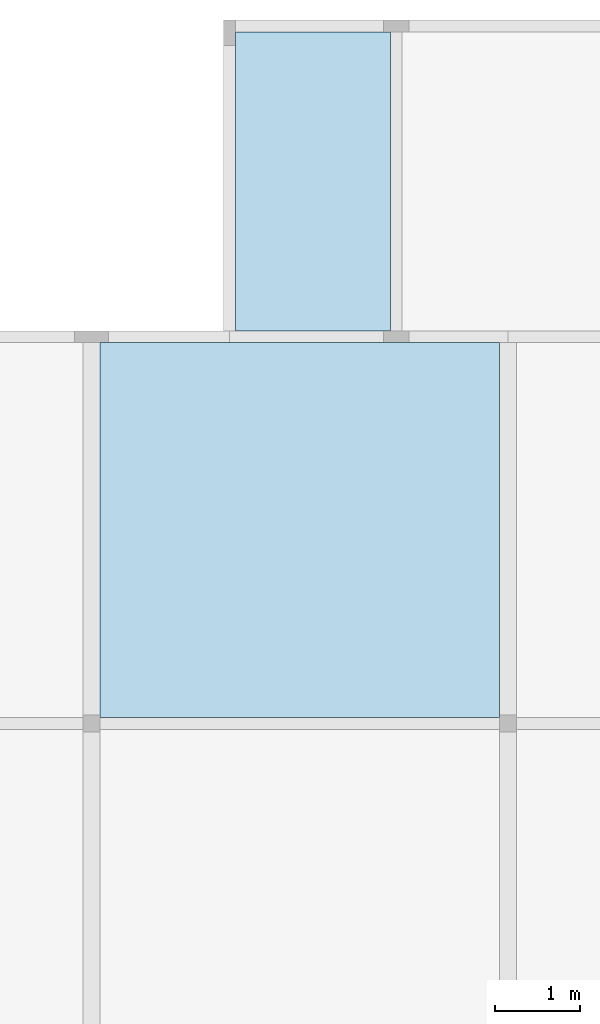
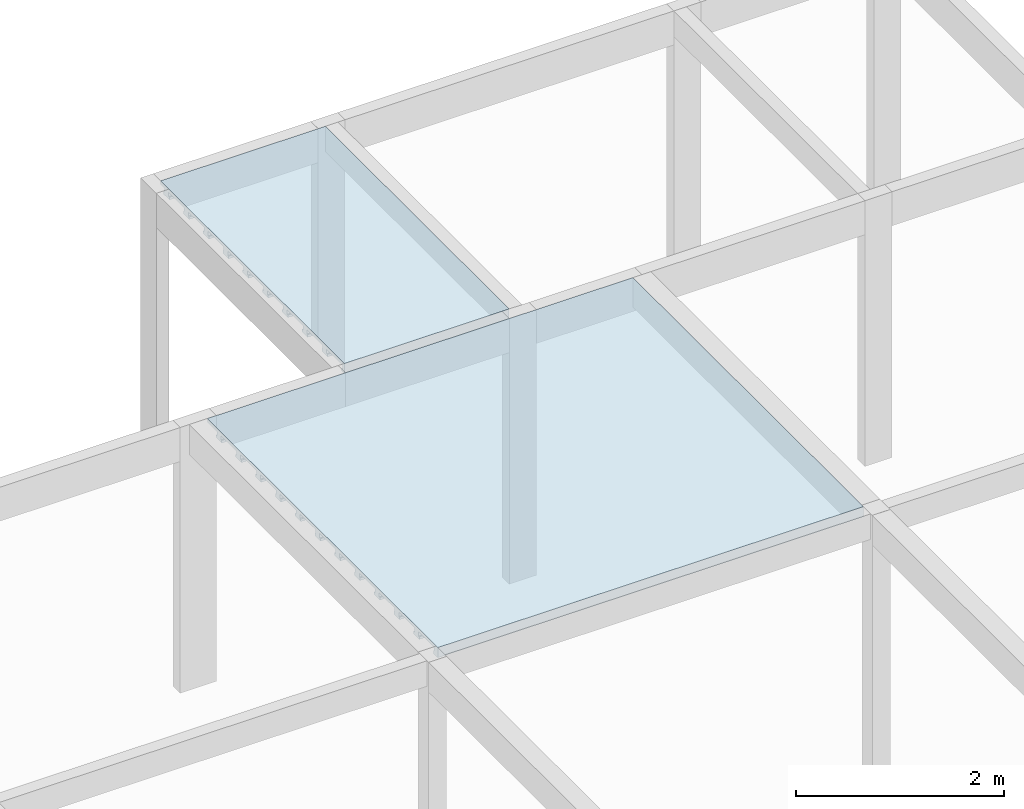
# One storey, part 5 of 7: 2 slabs.
"""IFC4 building model written with IfcOpenShell, lengths in centimetres."""

from ifc_helpers import new_model, si_unit, derived_unit, frame, origin_with_axes, place, context, project, spatial, polyline, outline, extrude, faceted_brep, material, element, save


model = new_model("IFC4")

# Units and contexts
model_context = context("Model", 3, precision=1e-05, world=origin_with_axes(), identifier="Body")
ifc_project = project(units=[si_unit("LENGTHUNIT", "METRE", prefix="CENTI"), si_unit("VOLUMEUNIT", "CUBIC_METRE"), si_unit("AREAUNIT", "SQUARE_METRE"), si_unit("POWERUNIT", "WATT"), si_unit("LUMINOUSFLUXUNIT", "LUMEN"), si_unit("ELECTRICCURRENTUNIT", "AMPERE"), si_unit("PRESSUREUNIT", "PASCAL", prefix="KILO"), si_unit("MASSUNIT", "GRAM", prefix="KILO"), si_unit("PLANEANGLEUNIT", "RADIAN"), derived_unit("VOLUMETRICFLOWRATEUNIT", [(si_unit("LENGTHUNIT", "METRE"), 3), (si_unit("TIMEUNIT", "SECOND"), -1)])], contexts=[model_context])

# Site, building, storey
site_placement = place(None, origin_with_axes())
site = spatial("IfcSite", under=ifc_project, at=site_placement)
building_placement = place(site_placement, frame((0.0, 0.0, 24.0)))
building = spatial("IfcBuilding", under=site, at=building_placement)
storey_placement = place(building_placement, frame((0.0, 0.0, 312.0), z_axis=(0.0, 0.0, 1.0), x_axis=(1.0, 0.0, 0.0)))
storey = spatial("IfcBuildingStorey", under=building, at=storey_placement, Name="RESPALDO", CompositionType="ELEMENT", Elevation=336.0)

# Slabs
ifc_material = material(Name="Concreto")
slab_1_placement = place(storey_placement, frame((780.88, 1379.26, 0.0), z_axis=(0.0, 0.0, 1.0), x_axis=(1.0, 0.0, 0.0)))
element("IfcSlab", 1, at=slab_1_placement, inside=storey, material=ifc_material, Name="L1", PredefinedType="FLOOR", context=model_context, shape_type="SolidModel", body=[
    extrude(outline(polyline([(91.499, 176.74), (-91.499, 176.74), (-91.5, -176.739), (91.5, -176.74), (91.499, 176.74), (91.499, 176.74)])), frame((0.0, 0.0, -4.0), z_axis=(0.0, 0.0, 1.0), x_axis=(1.0, 0.0, 0.0)), (0.0, 0.0, 1.0), 4.0),
    faceted_brep([(-91.4995, -172.74, -12.0), (91.4995, -172.74, -12.0), (91.4995, -176.7395, -12.0), (-91.4995, -176.7395, -12.0), (-91.4995, -176.7395, -4.0), (91.4995, -176.7395, -4.0), (91.4995, -172.74, -4.0), (-91.4995, -172.74, -4.0)], [[[0, 1, 2, 3]], [[4, 5, 6, 7]], [[4, 3, 5]], [[3, 2, 5]], [[5, 2, 6]], [[2, 1, 6]], [[6, 1, 7]], [[1, 0, 7]], [[7, 0, 4]], [[0, 3, 4]]]),
    faceted_brep([(-91.4995, -171.24, -12.0), (91.4995, -171.24, -12.0), (91.4995, -172.74, -12.0), (-91.4995, -172.74, -12.0), (-91.4995, -172.74, -9.0), (91.4995, -172.74, -9.0), (91.4995, -171.24, -9.0), (-91.4995, -171.24, -9.0)], [[[0, 1, 2, 3]], [[4, 5, 6, 7]], [[4, 3, 5]], [[3, 2, 5]], [[5, 2, 6]], [[2, 1, 6]], [[6, 1, 7]], [[1, 0, 7]], [[7, 0, 4]], [[0, 3, 4]]]),
    faceted_brep([(-91.4995, -134.74, -12.0), (91.4995, -134.74, -12.0), (91.4995, -142.74, -12.0), (-91.4995, -142.74, -12.0), (-91.4995, -142.74, -4.0), (91.4995, -142.74, -4.0), (91.4995, -134.74, -4.0), (-91.4995, -134.74, -4.0)], [[[0, 1, 2, 3]], [[4, 5, 6, 7]], [[4, 3, 5]], [[3, 2, 5]], [[5, 2, 6]], [[2, 1, 6]], [[6, 1, 7]], [[1, 0, 7]], [[7, 0, 4]], [[0, 3, 4]]]),
    faceted_brep([(-91.4995, -133.24, -12.0), (91.4995, -133.24, -12.0), (91.4995, -134.74, -12.0), (-91.4995, -134.74, -12.0), (-91.4995, -134.74, -9.0), (91.4995, -134.74, -9.0), (91.4995, -133.24, -9.0), (-91.4995, -133.24, -9.0)], [[[0, 1, 2, 3]], [[4, 5, 6, 7]], [[4, 3, 5]], [[3, 2, 5]], [[5, 2, 6]], [[2, 1, 6]], [[6, 1, 7]], [[1, 0, 7]], [[7, 0, 4]], [[0, 3, 4]]]),
    faceted_brep([(-91.4995, -142.74, -12.0), (91.4995, -142.74, -12.0), (91.4995, -144.24, -12.0), (-91.4995, -144.24, -12.0), (-91.4995, -144.24, -9.0), (91.4995, -144.24, -9.0), (91.4995, -142.74, -9.0), (-91.4995, -142.74, -9.0)], [[[0, 1, 2, 3]], [[4, 5, 6, 7]], [[4, 3, 5]], [[3, 2, 5]], [[5, 2, 6]], [[2, 1, 6]], [[6, 1, 7]], [[1, 0, 7]], [[7, 0, 4]], [[0, 3, 4]]]),
    faceted_brep([(-91.4995, -96.74, -12.0), (91.4995, -96.74, -12.0), (91.4995, -104.74, -12.0), (-91.4995, -104.74, -12.0), (-91.4995, -104.74, -4.0), (91.4995, -104.74, -4.0), (91.4995, -96.74, -4.0), (-91.4995, -96.74, -4.0)], [[[0, 1, 2, 3]], [[4, 5, 6, 7]], [[4, 3, 5]], [[3, 2, 5]], [[5, 2, 6]], [[2, 1, 6]], [[6, 1, 7]], [[1, 0, 7]], [[7, 0, 4]], [[0, 3, 4]]]),
    faceted_brep([(-91.4995, -95.24, -12.0), (91.4995, -95.24, -12.0), (91.4995, -96.74, -12.0), (-91.4995, -96.74, -12.0), (-91.4995, -96.74, -9.0), (91.4995, -96.74, -9.0), (91.4995, -95.24, -9.0), (-91.4995, -95.24, -9.0)], [[[0, 1, 2, 3]], [[4, 5, 6, 7]], [[4, 3, 5]], [[3, 2, 5]], [[5, 2, 6]], [[2, 1, 6]], [[6, 1, 7]], [[1, 0, 7]], [[7, 0, 4]], [[0, 3, 4]]]),
    faceted_brep([(-91.4995, -104.74, -12.0), (91.4995, -104.74, -12.0), (91.4995, -106.24, -12.0), (-91.4995, -106.24, -12.0), (-91.4995, -106.24, -9.0), (91.4995, -106.24, -9.0), (91.4995, -104.74, -9.0), (-91.4995, -104.74, -9.0)], [[[0, 1, 2, 3]], [[4, 5, 6, 7]], [[4, 3, 5]], [[3, 2, 5]], [[5, 2, 6]], [[2, 1, 6]], [[6, 1, 7]], [[1, 0, 7]], [[7, 0, 4]], [[0, 3, 4]]]),
    faceted_brep([(-91.4995, -58.74, -12.0), (91.4995, -58.74, -12.0), (91.4995, -66.74, -12.0), (-91.4995, -66.74, -12.0), (-91.4995, -66.74, -4.0), (91.4995, -66.74, -4.0), (91.4995, -58.74, -4.0), (-91.4995, -58.74, -4.0)], [[[0, 1, 2, 3]], [[4, 5, 6, 7]], [[4, 3, 5]], [[3, 2, 5]], [[5, 2, 6]], [[2, 1, 6]], [[6, 1, 7]], [[1, 0, 7]], [[7, 0, 4]], [[0, 3, 4]]]),
    faceted_brep([(-91.4995, -57.24, -12.0), (91.4995, -57.24, -12.0), (91.4995, -58.74, -12.0), (-91.4995, -58.74, -12.0), (-91.4995, -58.74, -9.0), (91.4995, -58.74, -9.0), (91.4995, -57.24, -9.0), (-91.4995, -57.24, -9.0)], [[[0, 1, 2, 3]], [[4, 5, 6, 7]], [[4, 3, 5]], [[3, 2, 5]], [[5, 2, 6]], [[2, 1, 6]], [[6, 1, 7]], [[1, 0, 7]], [[7, 0, 4]], [[0, 3, 4]]]),
    faceted_brep([(-91.4995, -66.74, -12.0), (91.4995, -66.74, -12.0), (91.4995, -68.24, -12.0), (-91.4995, -68.24, -12.0), (-91.4995, -68.24, -9.0), (91.4995, -68.24, -9.0), (91.4995, -66.74, -9.0), (-91.4995, -66.74, -9.0)], [[[0, 1, 2, 3]], [[4, 5, 6, 7]], [[4, 3, 5]], [[3, 2, 5]], [[5, 2, 6]], [[2, 1, 6]], [[6, 1, 7]], [[1, 0, 7]], [[7, 0, 4]], [[0, 3, 4]]]),
    faceted_brep([(-91.4995, -20.74, -12.0), (91.4995, -20.74, -12.0), (91.4995, -28.74, -12.0), (-91.4995, -28.74, -12.0), (-91.4995, -28.74, -4.0), (91.4995, -28.74, -4.0), (91.4995, -20.74, -4.0), (-91.4995, -20.74, -4.0)], [[[0, 1, 2, 3]], [[4, 5, 6, 7]], [[4, 3, 5]], [[3, 2, 5]], [[5, 2, 6]], [[2, 1, 6]], [[6, 1, 7]], [[1, 0, 7]], [[7, 0, 4]], [[0, 3, 4]]]),
    faceted_brep([(-91.4995, -19.24, -12.0), (91.4995, -19.24, -12.0), (91.4995, -20.74, -12.0), (-91.4995, -20.74, -12.0), (-91.4995, -20.74, -9.0), (91.4995, -20.74, -9.0), (91.4995, -19.24, -9.0), (-91.4995, -19.24, -9.0)], [[[0, 1, 2, 3]], [[4, 5, 6, 7]], [[4, 3, 5]], [[3, 2, 5]], [[5, 2, 6]], [[2, 1, 6]], [[6, 1, 7]], [[1, 0, 7]], [[7, 0, 4]], [[0, 3, 4]]]),
    faceted_brep([(-91.4995, -28.74, -12.0), (91.4995, -28.74, -12.0), (91.4995, -30.24, -12.0), (-91.4995, -30.24, -12.0), (-91.4995, -30.24, -9.0), (91.4995, -30.24, -9.0), (91.4995, -28.74, -9.0), (-91.4995, -28.74, -9.0)], [[[0, 1, 2, 3]], [[4, 5, 6, 7]], [[4, 3, 5]], [[3, 2, 5]], [[5, 2, 6]], [[2, 1, 6]], [[6, 1, 7]], [[1, 0, 7]], [[7, 0, 4]], [[0, 3, 4]]]),
    faceted_brep([(-91.4995, 17.26, -12.0), (91.4995, 17.26, -12.0), (91.4995, 9.26, -12.0), (-91.4995, 9.26, -12.0), (-91.4995, 9.26, -4.0), (91.4995, 9.26, -4.0), (91.4995, 17.26, -4.0), (-91.4995, 17.26, -4.0)], [[[0, 1, 2, 3]], [[4, 5, 6, 7]], [[4, 3, 5]], [[3, 2, 5]], [[5, 2, 6]], [[2, 1, 6]], [[6, 1, 7]], [[1, 0, 7]], [[7, 0, 4]], [[0, 3, 4]]]),
    faceted_brep([(-91.4995, 18.76, -12.0), (91.4995, 18.76, -12.0), (91.4995, 17.26, -12.0), (-91.4995, 17.26, -12.0), (-91.4995, 17.26, -9.0), (91.4995, 17.26, -9.0), (91.4995, 18.76, -9.0), (-91.4995, 18.76, -9.0)], [[[0, 1, 2, 3]], [[4, 5, 6, 7]], [[4, 3, 5]], [[3, 2, 5]], [[5, 2, 6]], [[2, 1, 6]], [[6, 1, 7]], [[1, 0, 7]], [[7, 0, 4]], [[0, 3, 4]]]),
    faceted_brep([(-91.4995, 9.26, -12.0), (91.4995, 9.26, -12.0), (91.4995, 7.76, -12.0), (-91.4995, 7.76, -12.0), (-91.4995, 7.76, -9.0), (91.4995, 7.76, -9.0), (91.4995, 9.26, -9.0), (-91.4995, 9.26, -9.0)], [[[0, 1, 2, 3]], [[4, 5, 6, 7]], [[4, 3, 5]], [[3, 2, 5]], [[5, 2, 6]], [[2, 1, 6]], [[6, 1, 7]], [[1, 0, 7]], [[7, 0, 4]], [[0, 3, 4]]]),
    faceted_brep([(-91.4995, 55.26, -12.0), (91.4995, 55.26, -12.0), (91.4995, 47.26, -12.0), (-91.4995, 47.26, -12.0), (-91.4995, 47.26, -4.0), (91.4995, 47.26, -4.0), (91.4995, 55.26, -4.0), (-91.4995, 55.26, -4.0)], [[[0, 1, 2, 3]], [[4, 5, 6, 7]], [[4, 3, 5]], [[3, 2, 5]], [[5, 2, 6]], [[2, 1, 6]], [[6, 1, 7]], [[1, 0, 7]], [[7, 0, 4]], [[0, 3, 4]]]),
    faceted_brep([(-91.4995, 56.76, -12.0), (91.4995, 56.76, -12.0), (91.4995, 55.26, -12.0), (-91.4995, 55.26, -12.0), (-91.4995, 55.26, -9.0), (91.4995, 55.26, -9.0), (91.4995, 56.76, -9.0), (-91.4995, 56.76, -9.0)], [[[0, 1, 2, 3]], [[4, 5, 6, 7]], [[4, 3, 5]], [[3, 2, 5]], [[5, 2, 6]], [[2, 1, 6]], [[6, 1, 7]], [[1, 0, 7]], [[7, 0, 4]], [[0, 3, 4]]]),
    faceted_brep([(-91.4995, 47.26, -12.0), (91.4995, 47.26, -12.0), (91.4995, 45.76, -12.0), (-91.4995, 45.76, -12.0), (-91.4995, 45.76, -9.0), (91.4995, 45.76, -9.0), (91.4995, 47.26, -9.0), (-91.4995, 47.26, -9.0)], [[[0, 1, 2, 3]], [[4, 5, 6, 7]], [[4, 3, 5]], [[3, 2, 5]], [[5, 2, 6]], [[2, 1, 6]], [[6, 1, 7]], [[1, 0, 7]], [[7, 0, 4]], [[0, 3, 4]]]),
    faceted_brep([(-91.4995, 93.26, -12.0), (91.4995, 93.26, -12.0), (91.4995, 85.26, -12.0), (-91.4995, 85.26, -12.0), (-91.4995, 85.26, -4.0), (91.4995, 85.26, -4.0), (91.4995, 93.26, -4.0), (-91.4995, 93.26, -4.0)], [[[0, 1, 2, 3]], [[4, 5, 6, 7]], [[4, 3, 5]], [[3, 2, 5]], [[5, 2, 6]], [[2, 1, 6]], [[6, 1, 7]], [[1, 0, 7]], [[7, 0, 4]], [[0, 3, 4]]]),
    faceted_brep([(-91.4995, 94.76, -12.0), (91.4995, 94.76, -12.0), (91.4995, 93.26, -12.0), (-91.4995, 93.26, -12.0), (-91.4995, 93.26, -9.0), (91.4995, 93.26, -9.0), (91.4995, 94.76, -9.0), (-91.4995, 94.76, -9.0)], [[[0, 1, 2, 3]], [[4, 5, 6, 7]], [[4, 3, 5]], [[3, 2, 5]], [[5, 2, 6]], [[2, 1, 6]], [[6, 1, 7]], [[1, 0, 7]], [[7, 0, 4]], [[0, 3, 4]]]),
    faceted_brep([(-91.4995, 85.26, -12.0), (91.4995, 85.26, -12.0), (91.4995, 83.76, -12.0), (-91.4995, 83.76, -12.0), (-91.4995, 83.76, -9.0), (91.4995, 83.76, -9.0), (91.4995, 85.26, -9.0), (-91.4995, 85.26, -9.0)], [[[0, 1, 2, 3]], [[4, 5, 6, 7]], [[4, 3, 5]], [[3, 2, 5]], [[5, 2, 6]], [[2, 1, 6]], [[6, 1, 7]], [[1, 0, 7]], [[7, 0, 4]], [[0, 3, 4]]]),
    faceted_brep([(-91.4995, 131.26, -12.0), (91.4995, 131.26, -12.0), (91.4995, 123.26, -12.0), (-91.4995, 123.26, -12.0), (-91.4995, 123.26, -4.0), (91.4995, 123.26, -4.0), (91.4995, 131.26, -4.0), (-91.4995, 131.26, -4.0)], [[[0, 1, 2, 3]], [[4, 5, 6, 7]], [[4, 3, 5]], [[3, 2, 5]], [[5, 2, 6]], [[2, 1, 6]], [[6, 1, 7]], [[1, 0, 7]], [[7, 0, 4]], [[0, 3, 4]]]),
    faceted_brep([(-91.4995, 132.76, -12.0), (91.4995, 132.76, -12.0), (91.4995, 131.26, -12.0), (-91.4995, 131.26, -12.0), (-91.4995, 131.26, -9.0), (91.4995, 131.26, -9.0), (91.4995, 132.76, -9.0), (-91.4995, 132.76, -9.0)], [[[0, 1, 2, 3]], [[4, 5, 6, 7]], [[4, 3, 5]], [[3, 2, 5]], [[5, 2, 6]], [[2, 1, 6]], [[6, 1, 7]], [[1, 0, 7]], [[7, 0, 4]], [[0, 3, 4]]]),
    faceted_brep([(-91.4995, 123.26, -12.0), (91.4995, 123.26, -12.0), (91.4995, 121.76, -12.0), (-91.4995, 121.76, -12.0), (-91.4995, 121.76, -9.0), (91.4995, 121.76, -9.0), (91.4995, 123.26, -9.0), (-91.4995, 123.26, -9.0)], [[[0, 1, 2, 3]], [[4, 5, 6, 7]], [[4, 3, 5]], [[3, 2, 5]], [[5, 2, 6]], [[2, 1, 6]], [[6, 1, 7]], [[1, 0, 7]], [[7, 0, 4]], [[0, 3, 4]]]),
    faceted_brep([(-91.4995, 169.26, -12.0), (91.4995, 169.26, -12.0), (91.4995, 161.26, -12.0), (-91.4995, 161.26, -12.0), (-91.4995, 161.26, -4.0), (91.4995, 161.26, -4.0), (91.4995, 169.26, -4.0), (-91.4995, 169.26, -4.0)], [[[0, 1, 2, 3]], [[4, 5, 6, 7]], [[4, 3, 5]], [[3, 2, 5]], [[5, 2, 6]], [[2, 1, 6]], [[6, 1, 7]], [[1, 0, 7]], [[7, 0, 4]], [[0, 3, 4]]]),
    faceted_brep([(-91.4995, 170.76, -12.0), (91.4995, 170.76, -12.0), (91.4995, 169.26, -12.0), (-91.4995, 169.26, -12.0), (-91.4995, 169.26, -9.0), (91.4995, 169.26, -9.0), (91.4995, 170.76, -9.0), (-91.4995, 170.76, -9.0)], [[[0, 1, 2, 3]], [[4, 5, 6, 7]], [[4, 3, 5]], [[3, 2, 5]], [[5, 2, 6]], [[2, 1, 6]], [[6, 1, 7]], [[1, 0, 7]], [[7, 0, 4]], [[0, 3, 4]]]),
    faceted_brep([(-91.4995, 161.26, -12.0), (91.4995, 161.26, -12.0), (91.4995, 159.76, -12.0), (-91.4995, 159.76, -12.0), (-91.4995, 159.76, -9.0), (91.4995, 159.76, -9.0), (91.4995, 161.26, -9.0), (-91.4995, 161.26, -9.0)], [[[0, 1, 2, 3]], [[4, 5, 6, 7]], [[4, 3, 5]], [[3, 2, 5]], [[5, 2, 6]], [[2, 1, 6]], [[6, 1, 7]], [[1, 0, 7]], [[7, 0, 4]], [[0, 3, 4]]]),
])
slab_2_placement = place(storey_placement, frame((765.345, 966.8895, 0.0), z_axis=(0.0, 0.0, 1.0), x_axis=(1.0, 0.0, 0.0)))
element("IfcSlab", 2, at=slab_2_placement, inside=storey, material=ifc_material, Name="L5", PredefinedType="FLOOR", context=model_context, shape_type="SolidModel", body=[
    extrude(outline(polyline([(236.284, -221.63), (236.285, 221.629), (-236.285, 221.629), (-236.284, -221.63), (236.284, -221.63), (236.284, -221.63)])), frame((0.0, 0.0005, -4.0), z_axis=(0.0, 0.0, 1.0), x_axis=(1.0, 0.0, 0.0)), (0.0, 0.0, 1.0), 4.0),
    faceted_brep([(-236.2845, -214.6295, -12.0), (236.2845, -214.6295, -12.0), (236.2845, -221.6295, -12.0), (-236.2840067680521, -221.6295, -12.0), (-236.2840067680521, -221.6295, -4.0), (236.2845, -221.6295, -4.0), (236.2845, -214.6295, -4.0), (-236.2845, -214.6295, -4.0)], [[[0, 1, 2, 3]], [[4, 5, 6, 7]], [[4, 3, 5]], [[3, 2, 5]], [[5, 2, 6]], [[2, 1, 6]], [[6, 1, 7]], [[1, 0, 7]], [[7, 0, 4]], [[0, 3, 4]]]),
    faceted_brep([(-236.2845, -213.1295, -12.0), (236.2845, -213.1295, -12.0), (236.2845, -214.6295, -12.0), (-236.2845, -214.6295, -12.0), (-236.2845, -214.6295, -9.0), (236.2845, -214.6295, -9.0), (236.2845, -213.1295, -9.0), (-236.2845, -213.1295, -9.0)], [[[0, 1, 2, 3]], [[4, 5, 6, 7]], [[4, 3, 5]], [[3, 2, 5]], [[5, 2, 6]], [[2, 1, 6]], [[6, 1, 7]], [[1, 0, 7]], [[7, 0, 4]], [[0, 3, 4]]]),
    faceted_brep([(-236.2845, -176.6295, -12.0), (236.2845, -176.6295, -12.0), (236.2845, -184.6295, -12.0), (-236.2845, -184.6295, -12.0), (-236.2845, -184.6295, -4.0), (236.2845, -184.6295, -4.0), (236.2845, -176.6295, -4.0), (-236.2845, -176.6295, -4.0)], [[[0, 1, 2, 3]], [[4, 5, 6, 7]], [[4, 3, 5]], [[3, 2, 5]], [[5, 2, 6]], [[2, 1, 6]], [[6, 1, 7]], [[1, 0, 7]], [[7, 0, 4]], [[0, 3, 4]]]),
    faceted_brep([(-236.2845, -175.1295, -12.0), (236.2845, -175.1295, -12.0), (236.2845, -176.6295, -12.0), (-236.2845, -176.6295, -12.0), (-236.2845, -176.6295, -9.0), (236.2845, -176.6295, -9.0), (236.2845, -175.1295, -9.0), (-236.2845, -175.1295, -9.0)], [[[0, 1, 2, 3]], [[4, 5, 6, 7]], [[4, 3, 5]], [[3, 2, 5]], [[5, 2, 6]], [[2, 1, 6]], [[6, 1, 7]], [[1, 0, 7]], [[7, 0, 4]], [[0, 3, 4]]]),
    faceted_brep([(-236.2845, -184.6295, -12.0), (236.2845, -184.6295, -12.0), (236.2845, -186.1295, -12.0), (-236.2845, -186.1295, -12.0), (-236.2845, -186.1295, -9.0), (236.2845, -186.1295, -9.0), (236.2845, -184.6295, -9.0), (-236.2845, -184.6295, -9.0)], [[[0, 1, 2, 3]], [[4, 5, 6, 7]], [[4, 3, 5]], [[3, 2, 5]], [[5, 2, 6]], [[2, 1, 6]], [[6, 1, 7]], [[1, 0, 7]], [[7, 0, 4]], [[0, 3, 4]]]),
    faceted_brep([(-236.2845, -138.6295, -12.0), (236.2845, -138.6295, -12.0), (236.2845, -146.6295, -12.0), (-236.2845, -146.6295, -12.0), (-236.2845, -146.6295, -4.0), (236.2845, -146.6295, -4.0), (236.2845, -138.6295, -4.0), (-236.2845, -138.6295, -4.0)], [[[0, 1, 2, 3]], [[4, 5, 6, 7]], [[4, 3, 5]], [[3, 2, 5]], [[5, 2, 6]], [[2, 1, 6]], [[6, 1, 7]], [[1, 0, 7]], [[7, 0, 4]], [[0, 3, 4]]]),
    faceted_brep([(-236.2845, -137.1295, -12.0), (236.2845, -137.1295, -12.0), (236.2845, -138.6295, -12.0), (-236.2845, -138.6295, -12.0), (-236.2845, -138.6295, -9.0), (236.2845, -138.6295, -9.0), (236.2845, -137.1295, -9.0), (-236.2845, -137.1295, -9.0)], [[[0, 1, 2, 3]], [[4, 5, 6, 7]], [[4, 3, 5]], [[3, 2, 5]], [[5, 2, 6]], [[2, 1, 6]], [[6, 1, 7]], [[1, 0, 7]], [[7, 0, 4]], [[0, 3, 4]]]),
    faceted_brep([(-236.2845, -146.6295, -12.0), (236.2845, -146.6295, -12.0), (236.2845, -148.1295, -12.0), (-236.2845, -148.1295, -12.0), (-236.2845, -148.1295, -9.0), (236.2845, -148.1295, -9.0), (236.2845, -146.6295, -9.0), (-236.2845, -146.6295, -9.0)], [[[0, 1, 2, 3]], [[4, 5, 6, 7]], [[4, 3, 5]], [[3, 2, 5]], [[5, 2, 6]], [[2, 1, 6]], [[6, 1, 7]], [[1, 0, 7]], [[7, 0, 4]], [[0, 3, 4]]]),
    faceted_brep([(-236.2845, -100.6295, -12.0), (236.2845, -100.6295, -12.0), (236.2845, -108.6295, -12.0), (-236.2845, -108.6295, -12.0), (-236.2845, -108.6295, -4.0), (236.2845, -108.6295, -4.0), (236.2845, -100.6295, -4.0), (-236.2845, -100.6295, -4.0)], [[[0, 1, 2, 3]], [[4, 5, 6, 7]], [[4, 3, 5]], [[3, 2, 5]], [[5, 2, 6]], [[2, 1, 6]], [[6, 1, 7]], [[1, 0, 7]], [[7, 0, 4]], [[0, 3, 4]]]),
    faceted_brep([(-236.2845, -99.1295, -12.0), (236.2845, -99.1295, -12.0), (236.2845, -100.6295, -12.0), (-236.2845, -100.6295, -12.0), (-236.2845, -100.6295, -9.0), (236.2845, -100.6295, -9.0), (236.2845, -99.1295, -9.0), (-236.2845, -99.1295, -9.0)], [[[0, 1, 2, 3]], [[4, 5, 6, 7]], [[4, 3, 5]], [[3, 2, 5]], [[5, 2, 6]], [[2, 1, 6]], [[6, 1, 7]], [[1, 0, 7]], [[7, 0, 4]], [[0, 3, 4]]]),
    faceted_brep([(-236.2845, -108.6295, -12.0), (236.2845, -108.6295, -12.0), (236.2845, -110.1295, -12.0), (-236.2845, -110.1295, -12.0), (-236.2845, -110.1295, -9.0), (236.2845, -110.1295, -9.0), (236.2845, -108.6295, -9.0), (-236.2845, -108.6295, -9.0)], [[[0, 1, 2, 3]], [[4, 5, 6, 7]], [[4, 3, 5]], [[3, 2, 5]], [[5, 2, 6]], [[2, 1, 6]], [[6, 1, 7]], [[1, 0, 7]], [[7, 0, 4]], [[0, 3, 4]]]),
    faceted_brep([(-236.2845, -62.6295, -12.0), (236.2845, -62.6295, -12.0), (236.2845, -70.6295, -12.0), (-236.2845, -70.6295, -12.0), (-236.2845, -70.6295, -4.0), (236.2845, -70.6295, -4.0), (236.2845, -62.6295, -4.0), (-236.2845, -62.6295, -4.0)], [[[0, 1, 2, 3]], [[4, 5, 6, 7]], [[4, 3, 5]], [[3, 2, 5]], [[5, 2, 6]], [[2, 1, 6]], [[6, 1, 7]], [[1, 0, 7]], [[7, 0, 4]], [[0, 3, 4]]]),
    faceted_brep([(-236.2845, -61.1295, -12.0), (236.2845, -61.1295, -12.0), (236.2845, -62.6295, -12.0), (-236.2845, -62.6295, -12.0), (-236.2845, -62.6295, -9.0), (236.2845, -62.6295, -9.0), (236.2845, -61.1295, -9.0), (-236.2845, -61.1295, -9.0)], [[[0, 1, 2, 3]], [[4, 5, 6, 7]], [[4, 3, 5]], [[3, 2, 5]], [[5, 2, 6]], [[2, 1, 6]], [[6, 1, 7]], [[1, 0, 7]], [[7, 0, 4]], [[0, 3, 4]]]),
    faceted_brep([(-236.2845, -70.6295, -12.0), (236.2845, -70.6295, -12.0), (236.2845, -72.1295, -12.0), (-236.2845, -72.1295, -12.0), (-236.2845, -72.1295, -9.0), (236.2845, -72.1295, -9.0), (236.2845, -70.6295, -9.0), (-236.2845, -70.6295, -9.0)], [[[0, 1, 2, 3]], [[4, 5, 6, 7]], [[4, 3, 5]], [[3, 2, 5]], [[5, 2, 6]], [[2, 1, 6]], [[6, 1, 7]], [[1, 0, 7]], [[7, 0, 4]], [[0, 3, 4]]]),
    faceted_brep([(-236.2845, -24.6295, -12.0), (236.2845, -24.6295, -12.0), (236.2845, -32.6295, -12.0), (-236.2845, -32.6295, -12.0), (-236.2845, -32.6295, -4.0), (236.2845, -32.6295, -4.0), (236.2845, -24.6295, -4.0), (-236.2845, -24.6295, -4.0)], [[[0, 1, 2, 3]], [[4, 5, 6, 7]], [[4, 3, 5]], [[3, 2, 5]], [[5, 2, 6]], [[2, 1, 6]], [[6, 1, 7]], [[1, 0, 7]], [[7, 0, 4]], [[0, 3, 4]]]),
    faceted_brep([(-236.2845, -23.1295, -12.0), (236.2845, -23.1295, -12.0), (236.2845, -24.6295, -12.0), (-236.2845, -24.6295, -12.0), (-236.2845, -24.6295, -9.0), (236.2845, -24.6295, -9.0), (236.2845, -23.1295, -9.0), (-236.2845, -23.1295, -9.0)], [[[0, 1, 2, 3]], [[4, 5, 6, 7]], [[4, 3, 5]], [[3, 2, 5]], [[5, 2, 6]], [[2, 1, 6]], [[6, 1, 7]], [[1, 0, 7]], [[7, 0, 4]], [[0, 3, 4]]]),
    faceted_brep([(-236.2845, -32.6295, -12.0), (236.2845, -32.6295, -12.0), (236.2845, -34.1295, -12.0), (-236.2845, -34.1295, -12.0), (-236.2845, -34.1295, -9.0), (236.2845, -34.1295, -9.0), (236.2845, -32.6295, -9.0), (-236.2845, -32.6295, -9.0)], [[[0, 1, 2, 3]], [[4, 5, 6, 7]], [[4, 3, 5]], [[3, 2, 5]], [[5, 2, 6]], [[2, 1, 6]], [[6, 1, 7]], [[1, 0, 7]], [[7, 0, 4]], [[0, 3, 4]]]),
    faceted_brep([(-236.2845, 13.3705, -12.0), (236.2845, 13.3705, -12.0), (236.2845, 5.3705, -12.0), (-236.2845, 5.3705, -12.0), (-236.2845, 5.3705, -4.0), (236.2845, 5.3705, -4.0), (236.2845, 13.3705, -4.0), (-236.2845, 13.3705, -4.0)], [[[0, 1, 2, 3]], [[4, 5, 6, 7]], [[4, 3, 5]], [[3, 2, 5]], [[5, 2, 6]], [[2, 1, 6]], [[6, 1, 7]], [[1, 0, 7]], [[7, 0, 4]], [[0, 3, 4]]]),
    faceted_brep([(-236.2845, 14.8705, -12.0), (236.2845, 14.8705, -12.0), (236.2845, 13.3705, -12.0), (-236.2845, 13.3705, -12.0), (-236.2845, 13.3705, -9.0), (236.2845, 13.3705, -9.0), (236.2845, 14.8705, -9.0), (-236.2845, 14.8705, -9.0)], [[[0, 1, 2, 3]], [[4, 5, 6, 7]], [[4, 3, 5]], [[3, 2, 5]], [[5, 2, 6]], [[2, 1, 6]], [[6, 1, 7]], [[1, 0, 7]], [[7, 0, 4]], [[0, 3, 4]]]),
    faceted_brep([(-236.2845, 5.3705, -12.0), (236.2845, 5.3705, -12.0), (236.2845, 3.8705, -12.0), (-236.2845, 3.8705, -12.0), (-236.2845, 3.8705, -9.0), (236.2845, 3.8705, -9.0), (236.2845, 5.3705, -9.0), (-236.2845, 5.3705, -9.0)], [[[0, 1, 2, 3]], [[4, 5, 6, 7]], [[4, 3, 5]], [[3, 2, 5]], [[5, 2, 6]], [[2, 1, 6]], [[6, 1, 7]], [[1, 0, 7]], [[7, 0, 4]], [[0, 3, 4]]]),
    faceted_brep([(-236.2845, 51.3705, -12.0), (236.2845, 51.3705, -12.0), (236.2845, 43.3705, -12.0), (-236.2845, 43.3705, -12.0), (-236.2845, 43.3705, -4.0), (236.2845, 43.3705, -4.0), (236.2845, 51.3705, -4.0), (-236.2845, 51.3705, -4.0)], [[[0, 1, 2, 3]], [[4, 5, 6, 7]], [[4, 3, 5]], [[3, 2, 5]], [[5, 2, 6]], [[2, 1, 6]], [[6, 1, 7]], [[1, 0, 7]], [[7, 0, 4]], [[0, 3, 4]]]),
    faceted_brep([(-236.2845, 52.8705, -12.0), (236.2845, 52.8705, -12.0), (236.2845, 51.3705, -12.0), (-236.2845, 51.3705, -12.0), (-236.2845, 51.3705, -9.0), (236.2845, 51.3705, -9.0), (236.2845, 52.8705, -9.0), (-236.2845, 52.8705, -9.0)], [[[0, 1, 2, 3]], [[4, 5, 6, 7]], [[4, 3, 5]], [[3, 2, 5]], [[5, 2, 6]], [[2, 1, 6]], [[6, 1, 7]], [[1, 0, 7]], [[7, 0, 4]], [[0, 3, 4]]]),
    faceted_brep([(-236.2845, 43.3705, -12.0), (236.2845, 43.3705, -12.0), (236.2845, 41.8705, -12.0), (-236.2845, 41.8705, -12.0), (-236.2845, 41.8705, -9.0), (236.2845, 41.8705, -9.0), (236.2845, 43.3705, -9.0), (-236.2845, 43.3705, -9.0)], [[[0, 1, 2, 3]], [[4, 5, 6, 7]], [[4, 3, 5]], [[3, 2, 5]], [[5, 2, 6]], [[2, 1, 6]], [[6, 1, 7]], [[1, 0, 7]], [[7, 0, 4]], [[0, 3, 4]]]),
    faceted_brep([(-236.2845, 89.3705, -12.0), (236.2845, 89.3705, -12.0), (236.2845, 81.3705, -12.0), (-236.2845, 81.3705, -12.0), (-236.2845, 81.3705, -4.0), (236.2845, 81.3705, -4.0), (236.2845, 89.3705, -4.0), (-236.2845, 89.3705, -4.0)], [[[0, 1, 2, 3]], [[4, 5, 6, 7]], [[4, 3, 5]], [[3, 2, 5]], [[5, 2, 6]], [[2, 1, 6]], [[6, 1, 7]], [[1, 0, 7]], [[7, 0, 4]], [[0, 3, 4]]]),
    faceted_brep([(-236.2845, 90.8705, -12.0), (236.2845, 90.8705, -12.0), (236.2845, 89.3705, -12.0), (-236.2845, 89.3705, -12.0), (-236.2845, 89.3705, -9.0), (236.2845, 89.3705, -9.0), (236.2845, 90.8705, -9.0), (-236.2845, 90.8705, -9.0)], [[[0, 1, 2, 3]], [[4, 5, 6, 7]], [[4, 3, 5]], [[3, 2, 5]], [[5, 2, 6]], [[2, 1, 6]], [[6, 1, 7]], [[1, 0, 7]], [[7, 0, 4]], [[0, 3, 4]]]),
    faceted_brep([(-236.2845, 81.3705, -12.0), (236.2845, 81.3705, -12.0), (236.2845, 79.8705, -12.0), (-236.2845, 79.8705, -12.0), (-236.2845, 79.8705, -9.0), (236.2845, 79.8705, -9.0), (236.2845, 81.3705, -9.0), (-236.2845, 81.3705, -9.0)], [[[0, 1, 2, 3]], [[4, 5, 6, 7]], [[4, 3, 5]], [[3, 2, 5]], [[5, 2, 6]], [[2, 1, 6]], [[6, 1, 7]], [[1, 0, 7]], [[7, 0, 4]], [[0, 3, 4]]]),
    faceted_brep([(-236.2845, 127.3705, -12.0), (236.2845, 127.3705, -12.0), (236.2845, 119.3705, -12.0), (-236.2845, 119.3705, -12.0), (-236.2845, 119.3705, -4.0), (236.2845, 119.3705, -4.0), (236.2845, 127.3705, -4.0), (-236.2845, 127.3705, -4.0)], [[[0, 1, 2, 3]], [[4, 5, 6, 7]], [[4, 3, 5]], [[3, 2, 5]], [[5, 2, 6]], [[2, 1, 6]], [[6, 1, 7]], [[1, 0, 7]], [[7, 0, 4]], [[0, 3, 4]]]),
    faceted_brep([(-236.2845, 128.8705, -12.0), (236.2845, 128.8705, -12.0), (236.2845, 127.3705, -12.0), (-236.2845, 127.3705, -12.0), (-236.2845, 127.3705, -9.0), (236.2845, 127.3705, -9.0), (236.2845, 128.8705, -9.0), (-236.2845, 128.8705, -9.0)], [[[0, 1, 2, 3]], [[4, 5, 6, 7]], [[4, 3, 5]], [[3, 2, 5]], [[5, 2, 6]], [[2, 1, 6]], [[6, 1, 7]], [[1, 0, 7]], [[7, 0, 4]], [[0, 3, 4]]]),
    faceted_brep([(-236.2845, 119.3705, -12.0), (236.2845, 119.3705, -12.0), (236.2845, 117.8705, -12.0), (-236.2845, 117.8705, -12.0), (-236.2845, 117.8705, -9.0), (236.2845, 117.8705, -9.0), (236.2845, 119.3705, -9.0), (-236.2845, 119.3705, -9.0)], [[[0, 1, 2, 3]], [[4, 5, 6, 7]], [[4, 3, 5]], [[3, 2, 5]], [[5, 2, 6]], [[2, 1, 6]], [[6, 1, 7]], [[1, 0, 7]], [[7, 0, 4]], [[0, 3, 4]]]),
    faceted_brep([(-236.2845, 165.3705, -12.0), (236.2845, 165.3705, -12.0), (236.2845, 157.3705, -12.0), (-236.2845, 157.3705, -12.0), (-236.2845, 157.3705, -4.0), (236.2845, 157.3705, -4.0), (236.2845, 165.3705, -4.0), (-236.2845, 165.3705, -4.0)], [[[0, 1, 2, 3]], [[4, 5, 6, 7]], [[4, 3, 5]], [[3, 2, 5]], [[5, 2, 6]], [[2, 1, 6]], [[6, 1, 7]], [[1, 0, 7]], [[7, 0, 4]], [[0, 3, 4]]]),
    faceted_brep([(-236.2845, 166.8705, -12.0), (236.2845, 166.8705, -12.0), (236.2845, 165.3705, -12.0), (-236.2845, 165.3705, -12.0), (-236.2845, 165.3705, -9.0), (236.2845, 165.3705, -9.0), (236.2845, 166.8705, -9.0), (-236.2845, 166.8705, -9.0)], [[[0, 1, 2, 3]], [[4, 5, 6, 7]], [[4, 3, 5]], [[3, 2, 5]], [[5, 2, 6]], [[2, 1, 6]], [[6, 1, 7]], [[1, 0, 7]], [[7, 0, 4]], [[0, 3, 4]]]),
    faceted_brep([(-236.2845, 157.3705, -12.0), (236.2845, 157.3705, -12.0), (236.2845, 155.8705, -12.0), (-236.2845, 155.8705, -12.0), (-236.2845, 155.8705, -9.0), (236.2845, 155.8705, -9.0), (236.2845, 157.3705, -9.0), (-236.2845, 157.3705, -9.0)], [[[0, 1, 2, 3]], [[4, 5, 6, 7]], [[4, 3, 5]], [[3, 2, 5]], [[5, 2, 6]], [[2, 1, 6]], [[6, 1, 7]], [[1, 0, 7]], [[7, 0, 4]], [[0, 3, 4]]]),
    faceted_brep([(-236.2845, 203.3705, -12.0), (236.2845, 203.3705, -12.0), (236.2845, 195.3705, -12.0), (-236.2845, 195.3705, -12.0), (-236.2845, 195.3705, -4.0), (236.2845, 195.3705, -4.0), (236.2845, 203.3705, -4.0), (-236.2845, 203.3705, -4.0)], [[[0, 1, 2, 3]], [[4, 5, 6, 7]], [[4, 3, 5]], [[3, 2, 5]], [[5, 2, 6]], [[2, 1, 6]], [[6, 1, 7]], [[1, 0, 7]], [[7, 0, 4]], [[0, 3, 4]]]),
    faceted_brep([(-236.2845, 204.8705, -12.0), (236.2845, 204.8705, -12.0), (236.2845, 203.3705, -12.0), (-236.2845, 203.3705, -12.0), (-236.2845, 203.3705, -9.0), (236.2845, 203.3705, -9.0), (236.2845, 204.8705, -9.0), (-236.2845, 204.8705, -9.0)], [[[0, 1, 2, 3]], [[4, 5, 6, 7]], [[4, 3, 5]], [[3, 2, 5]], [[5, 2, 6]], [[2, 1, 6]], [[6, 1, 7]], [[1, 0, 7]], [[7, 0, 4]], [[0, 3, 4]]]),
    faceted_brep([(-236.2845, 195.3705, -12.0), (236.2845, 195.3705, -12.0), (236.2845, 193.8705, -12.0), (-236.2845, 193.8705, -12.0), (-236.2845, 193.8705, -9.0), (236.2845, 193.8705, -9.0), (236.2845, 195.3705, -9.0), (-236.2845, 195.3705, -9.0)], [[[0, 1, 2, 3]], [[4, 5, 6, 7]], [[4, 3, 5]], [[3, 2, 5]], [[5, 2, 6]], [[2, 1, 6]], [[6, 1, 7]], [[1, 0, 7]], [[7, 0, 4]], [[0, 3, 4]]]),
])

save(model, "model.ifc")
